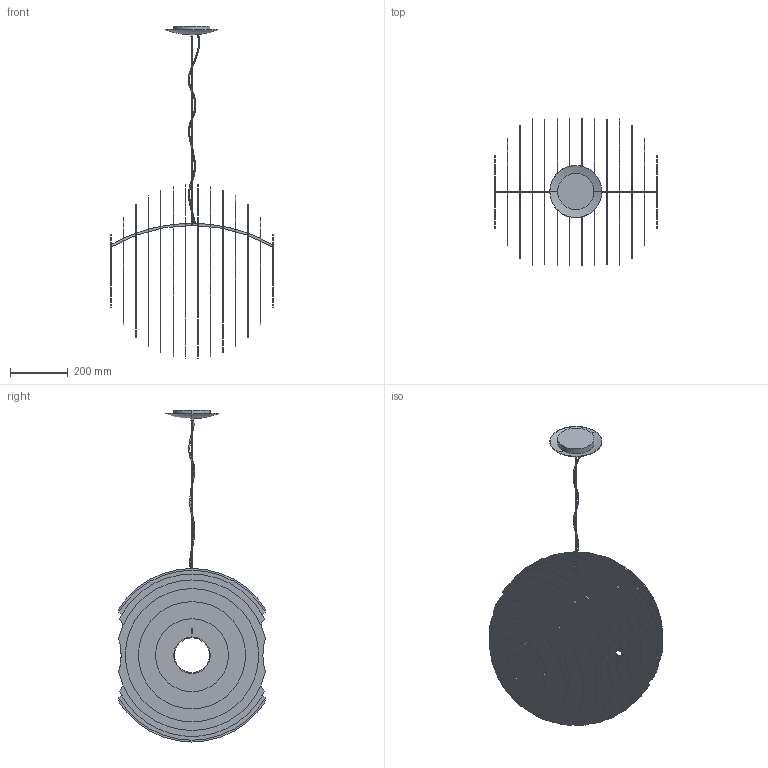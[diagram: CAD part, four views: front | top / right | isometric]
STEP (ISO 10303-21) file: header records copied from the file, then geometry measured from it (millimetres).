
FILE_DESCRIPTION (( 'STEP AP203' ), '1' );
FILE_NAME ('102_STD_S_PL_3D.STEP', '2021-10-14T11:59:42', ( '' ), ( '' ), 'SwSTEP 2.0', 'SolidWorks 2021', '' );
FILE_SCHEMA (( 'CONFIG_CONTROL_DESIGN' ));
Length unit declared in the file: millimetre
Products named in the file (1): 102_STD_S_PL_3D
Bounding box: 559.7 x 509.55 x 1145 mm (x, y, z)
Volume: 2386705.5 mm3; surface area: 3571635.4 mm2
Topology: 8 solids, 8 shells, 316 faces, 875 edges, 578 vertices
Faces by surface type: cylinder 202, plane 100, torus 8, cone 4, bspline 2
Entity records: 11382 total; most frequent: CARTESIAN_POINT 2688, DIRECTION 1923, ORIENTED_EDGE 1750, EDGE_CURVE 875, AXIS2_PLACEMENT_3D 737, VERTEX_POINT 578, VECTOR 449, LINE 449
